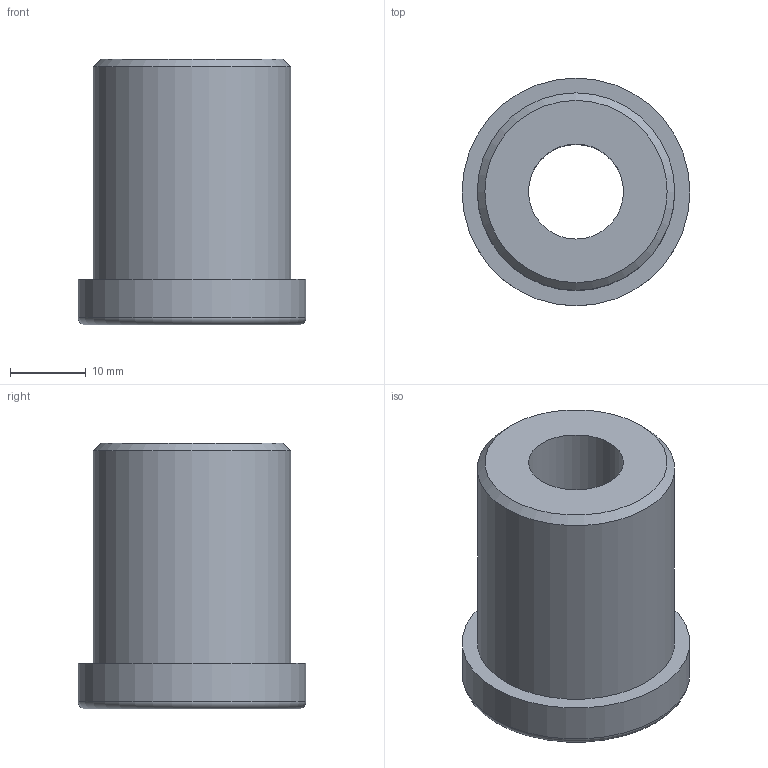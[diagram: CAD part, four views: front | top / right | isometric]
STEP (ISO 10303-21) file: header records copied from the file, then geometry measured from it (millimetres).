
FILE_DESCRIPTION (( 'STEP AP214' ), '1' );
FILE_NAME ('F21852.step', '2024-12-03T16:16:03', ( '' ), ( '' ), 'SwSTEP 2.0', 'SolidWorks 2023', '' );
FILE_SCHEMA (( 'AUTOMOTIVE_DESIGN' ));
Length unit declared in the file: millimetre
Products named in the file (1): F21852
Bounding box: 30 x 30 x 35 mm (x, y, z)
Volume: 15283.2 mm3; surface area: 5386.9 mm2
Topology: 1 solids, 1 shells, 8 faces, 14 edges, 9 vertices
Faces by surface type: plane 3, cylinder 3, torus 1, cone 1
Full cylindrical faces by diameter (mm): 12.5 x1, 26 x1, 30 x1
Entity records: 191 total; most frequent: DIRECTION 34, CARTESIAN_POINT 25, AXIS2_PLACEMENT_3D 17, ORIENTED_EDGE 16, EDGE_LOOP 16, FACE_OUTER_BOUND 12, CIRCLE 8, EDGE_CURVE 8
